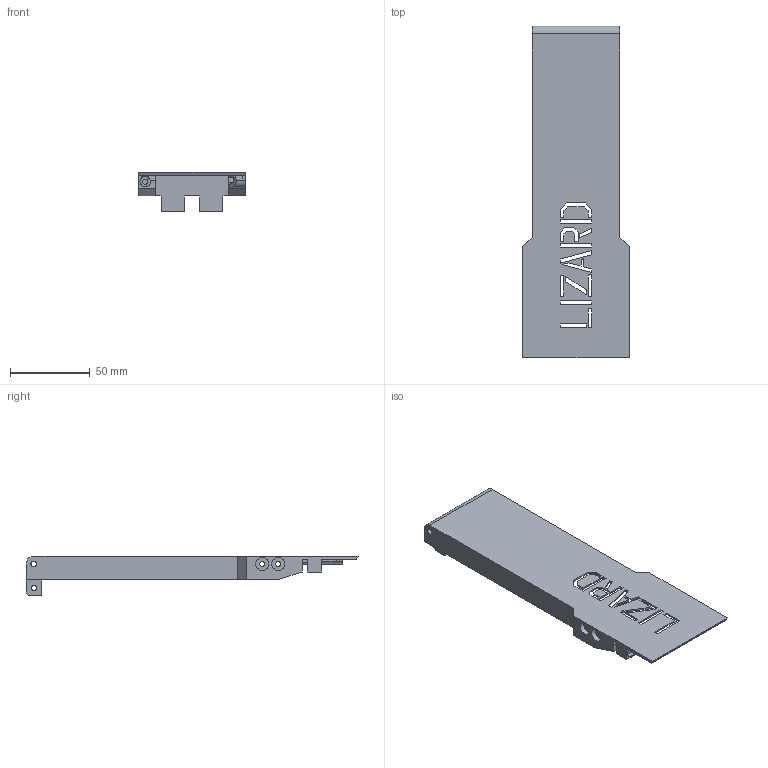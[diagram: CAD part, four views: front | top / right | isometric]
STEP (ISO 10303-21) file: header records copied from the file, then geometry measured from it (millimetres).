
FILE_DESCRIPTION(/* description */ (''),/* implementation_level */ '2;1');
FILE_NAME(/* name */ '1-24-1 Battery holder top.step',/* time_stamp */ '2025-05-10T21:35:08+02:00',/* author */ (''),/* organization */ (''),/* preprocessor_version */ 'ST-DEVELOPER v20.1',/* originating_system */ 'Autodesk Translation Framework v14.4.0.0',/* authorisation */ '');
FILE_SCHEMA (('AUTOMOTIVE_DESIGN { 1 0 10303 214 3 1 1 }'));
Length unit declared in the file: millimetre
Products named in the file (1): 1-24-1 Battery holder top
Bounding box: 66.6 x 207.8 x 25.01 mm (x, y, z)
Volume: 53066.7 mm3; surface area: 38509.8 mm2
Topology: 1 solids, 1 shells, 206 faces, 579 edges, 386 vertices
Faces by surface type: plane 183, cylinder 23
Full cylindrical faces by diameter (mm): 3.2 x11, 3.5 x1, 4.1 x2, 6.5 x1, 8.1 x4
Entity records: 6688 total; most frequent: CARTESIAN_POINT 1172, ORIENTED_EDGE 1158, DIRECTION 1042, EDGE_CURVE 579, LINE 530, VECTOR 530, VERTEX_POINT 386, EDGE_LOOP 265
